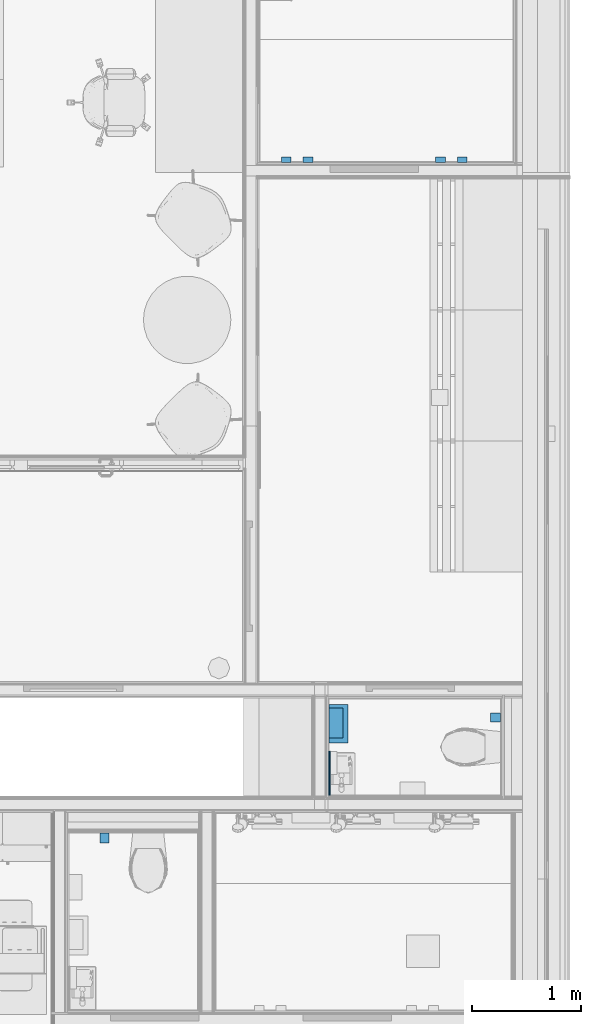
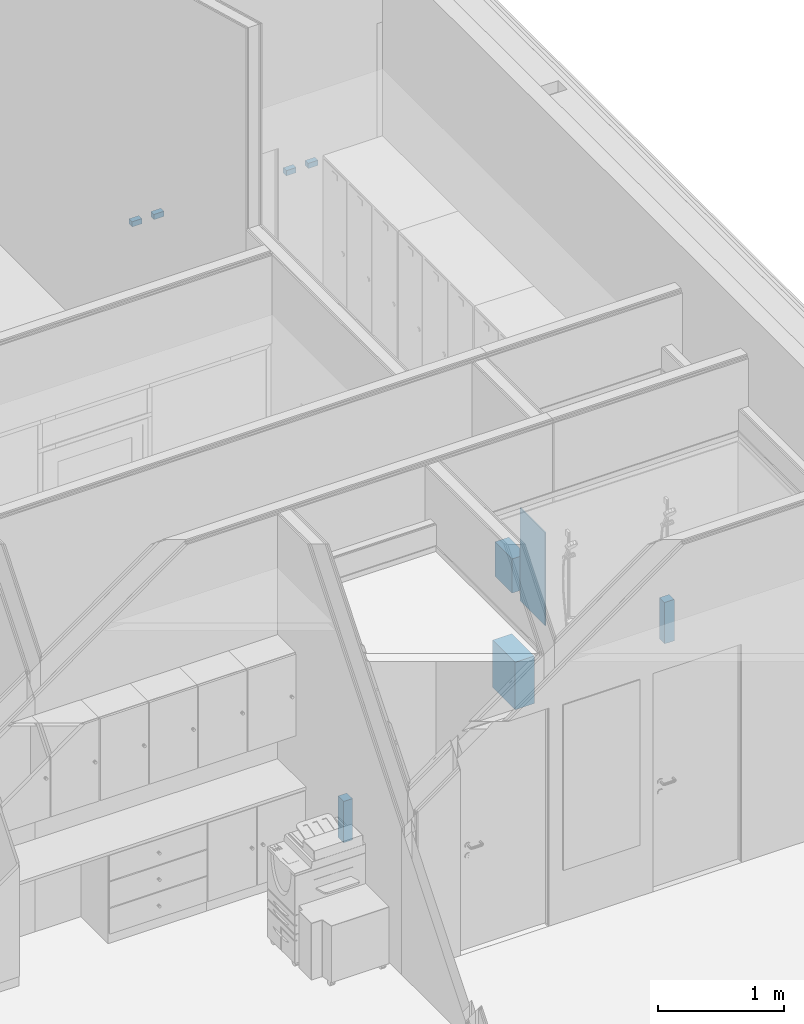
# One storey, part 97 of 153: 9 discrete accessories.
"""IFC2X3 building model written with IfcOpenShell, lengths in millimetres."""

from ifc_helpers import new_model, entity, si_unit, converted_unit, derived_unit, money_unit, direction, frame, origin_with_axes, place, context, subcontext, project, spatial, faceted_brep, material, type_object, element, save


model = new_model("IFC2X3")

# Units and contexts
model_context = context("Model", 3, precision=0.01, world=origin_with_axes(), true_north=direction((0.0, 1.0)))
body_context = subcontext(model_context, "Body", "Model", "MODEL_VIEW")
ifc_project = project(units=[si_unit("LENGTHUNIT", "METRE", prefix="MILLI"), si_unit("AREAUNIT", "SQUARE_METRE"), si_unit("VOLUMEUNIT", "CUBIC_METRE"), converted_unit("PLANEANGLEUNIT", "DEGREE", entity("IfcPlaneAngleMeasure", 0.0174532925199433), si_unit("PLANEANGLEUNIT", "RADIAN"), dimensions=[0, 0, 0, 0, 0, 0, 0]), money_unit("EUR"), converted_unit("TIMEUNIT", "Year", entity("IfcTimeMeasure", 31557600.0), si_unit("TIMEUNIT", "SECOND"), dimensions=[0, 0, 1, 0, 0, 0, 0]), si_unit("MASSUNIT", "GRAM", prefix="KILO"), si_unit("THERMODYNAMICTEMPERATUREUNIT", "DEGREE_CELSIUS"), si_unit("LUMINOUSINTENSITYUNIT", "LUMEN"), si_unit("ENERGYUNIT", "JOULE", prefix="MEGA"), derived_unit("THERMALCONDUCTANCEUNIT", [(si_unit("POWERUNIT", "WATT"), 1), (si_unit("LENGTHUNIT", "METRE"), -1), (si_unit("THERMODYNAMICTEMPERATUREUNIT", "KELVIN"), -1)]), derived_unit("SPECIFICHEATCAPACITYUNIT", [(si_unit("ENERGYUNIT", "JOULE"), 1), (si_unit("MASSUNIT", "GRAM", prefix="KILO"), -1), (si_unit("THERMODYNAMICTEMPERATUREUNIT", "KELVIN"), -1)]), derived_unit("MASSDENSITYUNIT", [(si_unit("MASSUNIT", "GRAM", prefix="KILO"), 1), (si_unit("VOLUMEUNIT", "CUBIC_METRE"), -1)])], contexts=[model_context])

# Site, building, storey
site_placement = place(None, frame((0.0, 0.0, 8650.0), z_axis=(0.0, 0.0, 1.0), x_axis=(1.0, 0.0, 0.0)))
site = spatial("IfcSite", under=ifc_project, at=site_placement, Name="43301:001:0844", CompositionType="ELEMENT")
building_placement = place(site_placement, origin_with_axes())
building = spatial("IfcBuilding", under=site, at=building_placement, Name="Kuressaare Ametikooli tuulikute mehaanikute õppekorpus", CompositionType="ELEMENT")
storey_placement = place(building_placement, frame((0.0, 0.0, 4100.0), z_axis=(0.0, 0.0, 1.0), x_axis=(1.0, 0.0, 0.0)))
storey = spatial("IfcBuildingStorey", under=building, at=storey_placement, Name="2.korrus", CompositionType="ELEMENT", Elevation=4100.0)

# Discrete accessories
ifc_material_1 = material(Name="GENEERILINE - SISEMINE VOODER")
discrete_accessory_type_1 = type_object("IfcDiscreteAccessoryType", Name="GENEERILINE - SISEMINE VOODER 10")
discrete_accessory_1_placement = place(storey_placement, frame((131265.1591945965, 20597.06855301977, 1200.0), z_axis=(0.0, 0.0, 1.0), x_axis=(-1.041563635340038e-06, 0.9999999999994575, 0.0)))
element("IfcDiscreteAccessory", 1, at=discrete_accessory_1_placement, inside=storey, type_object=discrete_accessory_type_1, material=ifc_material_1, Name="P1", context=body_context, shape_type="Brep", body=[
    faceted_brep([(0.0, 0.0, 899.9999999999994), (399.999999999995, 0.0, 899.9999999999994), (399.999999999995, 9.999999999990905, 899.9999999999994), (0.0, 9.999999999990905, 899.9999999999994), (0.0, 0.0, 0.0), (399.999999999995, 0.0, 0.0), (399.999999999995, 9.999999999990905, 0.0), (0.0, 9.999999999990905, 0.0)], [[[0, 1, 2, 3]], [[4, 5, 1, 0]], [[2, 1, 5, 6]], [[3, 2, 6, 7]], [[4, 0, 3, 7]], [[7, 6, 5, 4]]]),
])
ifc_material_2 = material(Name="GENEERILINE - KONSTRUKTRIOON")
discrete_accessory_type_2 = type_object("IfcDiscreteAccessoryType", Name="GENEERILINE - KONSTRUKTRIOON 400")
discrete_accessory_2_placement = place(storey_placement, frame((129242.4503593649, 20161.06884733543, 99.99999999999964), z_axis=(0.0, 0.0, 1.0), x_axis=(1.0, 0.0, 0.0)))
element("IfcDiscreteAccessory", 2, at=discrete_accessory_2_placement, inside=storey, type_object=discrete_accessory_type_2, material=ifc_material_2, Name="WCH", context=body_context, shape_type="Brep", body=[
    faceted_brep([(0.0, 0.0, 400.0000000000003), (0.0, 0.0, 0.0), (0.0, 88.99999999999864, 0.0), (0.0, 88.99999999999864, 400.0000000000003), (-81.00000000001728, 0.0, 400.0000000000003), (-81.00000000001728, 0.0, 0.0), (-81.00000000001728, 88.99999999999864, 0.0), (-81.00000000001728, 88.99999999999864, 400.0000000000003)], [[[0, 1, 2, 3]], [[4, 5, 1, 0]], [[2, 1, 5, 6]], [[3, 2, 6, 7]], [[4, 0, 3, 7]], [[7, 6, 5, 4]]]),
])
discrete_accessory_3_placement = place(storey_placement, frame((132734.9461774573, 21268.74385079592, 99.99999999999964), z_axis=(0.0, 0.0, 1.0), x_axis=(1.0, 0.0, 0.0)))
element("IfcDiscreteAccessory", 3, at=discrete_accessory_3_placement, inside=storey, type_object=discrete_accessory_type_2, material=ifc_material_2, Name="WCH", context=body_context, shape_type="Brep", body=[
    faceted_brep([(0.0, 0.0, 400.0000000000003), (0.0, 0.0, 0.0), (88.99999999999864, 0.0, 0.0), (88.99999999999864, 0.0, 400.0000000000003), (0.0, 81.00000000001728, 400.0000000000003), (0.0, 81.00000000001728, 0.0), (88.99999999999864, 81.00000000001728, 0.0), (88.99999999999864, 81.00000000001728, 400.0000000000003)], [[[0, 1, 2, 3]], [[4, 5, 1, 0]], [[2, 1, 5, 6]], [[3, 2, 6, 7]], [[4, 0, 3, 7]], [[7, 6, 5, 4]]]),
])
discrete_accessory_type_3 = type_object("IfcDiscreteAccessoryType", Name="GENEERILINE - KONSTRUKTRIOON 50")
for number, where, z_axis, x_axis, name in (
    (4, (132230.0683571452, 26434.06892395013, 1700.0), (0.0, 0.0, 1.0), (1.0, 0.0, 0.0), "N1"),
    (5, (132430.0683571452, 26434.06892395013, 1700.0), (0.0, 0.0, 1.0), (1.0, 0.0, 0.0), "N1"),
):
    element("IfcDiscreteAccessory", number, at=place(storey_placement, frame(where, z_axis=z_axis, x_axis=x_axis)), inside=storey, type_object=discrete_accessory_type_3, material=ifc_material_2, Name=name, context=body_context, shape_type="Brep", body=[
        faceted_brep([(0.0, 0.0, 49.99999999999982), (0.0, 0.0, 0.0), (0.0, -49.99999999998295, 0.0), (0.0, -49.99999999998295, 49.99999999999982), (90.00000000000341, 0.0, 49.99999999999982), (90.00000000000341, 0.0, 0.0), (90.00000000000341, -49.99999999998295, 0.0), (90.00000000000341, -49.99999999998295, 49.99999999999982)], [[[0, 1, 2, 3]], [[4, 5, 1, 0]], [[2, 1, 5, 6]], [[3, 2, 6, 7]], [[4, 0, 3, 7]], [[7, 6, 5, 4]]]),
    ])
for number, where, z_axis, x_axis, name in (
    (6, (131110.0683571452, 26434.06892395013, 1700.0), (0.0, 0.0, 1.0), (1.0, 0.0, 0.0), "N1"),
    (7, (130910.0683571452, 26434.06892395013, 1700.0), (0.0, 0.0, 1.0), (1.0, 0.0, 0.0), "N1"),
):
    element("IfcDiscreteAccessory", number, at=place(storey_placement, frame(where, z_axis=z_axis, x_axis=x_axis)), inside=storey, type_object=discrete_accessory_type_3, material=ifc_material_2, Name=name, context=body_context, shape_type="Brep", body=[
        faceted_brep([(0.0, 0.0, 49.99999999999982), (0.0, 0.0, 0.0), (-90.00000000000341, 0.0, 0.0), (-90.00000000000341, 0.0, 49.99999999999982), (0.0, -49.99999999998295, 49.99999999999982), (0.0, -49.99999999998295, 0.0), (-90.00000000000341, -49.99999999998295, 0.0), (-90.00000000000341, -49.99999999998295, 49.99999999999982)], [[[0, 1, 2, 3]], [[4, 5, 1, 0]], [[2, 1, 5, 6]], [[3, 2, 6, 7]], [[4, 0, 3, 7]], [[7, 6, 5, 4]]]),
    ])
discrete_accessory_type_4 = type_object("IfcDiscreteAccessoryType", Name="GENEERILINE - KONSTRUKTRIOON 460")
discrete_accessory_4_placement = place(storey_placement, frame((131255.1582896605, 21072.49224138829, 99.99999999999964), z_axis=(0.0, 0.0, 1.0), x_axis=(1.0, 0.0, 0.0)))
element("IfcDiscreteAccessory", 8, at=discrete_accessory_4_placement, inside=storey, type_object=discrete_accessory_type_4, material=ifc_material_2, Name="PR1", context=body_context, shape_type="Brep", body=[
    faceted_brep([(0.0, 0.0, 460.0000000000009), (0.0, 0.0, 0.0), (175.9999999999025, 0.0001833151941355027, 0.0), (175.9999999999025, 0.0001833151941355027, 460.0000000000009), (-0.0003697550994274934, 354.9999999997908, 460.0000000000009), (-0.0003697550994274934, 354.9999999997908, 0.0), (175.999630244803, 355.000183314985, 0.0), (175.999630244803, 355.000183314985, 460.0000000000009)], [[[0, 1, 2, 3]], [[4, 5, 1, 0]], [[2, 1, 5, 6]], [[3, 2, 6, 7]], [[4, 0, 3, 7]], [[7, 6, 5, 4]]]),
])
discrete_accessory_type_5 = type_object("IfcDiscreteAccessoryType", Name="GENEERILINE - KONSTRUKTRIOON 330")
discrete_accessory_5_placement = place(storey_placement, frame((131255.1585600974, 21119.3877669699, 1200.0), z_axis=(0.0, 0.0, 1.0), x_axis=(1.0, 0.0, 0.0)))
element("IfcDiscreteAccessory", 9, at=discrete_accessory_5_placement, inside=storey, type_object=discrete_accessory_type_5, material=ifc_material_2, Name="PD", context=body_context, shape_type="Brep", body=[
    faceted_brep([(0.0, 0.0, 330.0000000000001), (0.0, 0.0, 0.0), (129.9999999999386, 0.0001354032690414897, 0.0), (129.9999999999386, 0.0001354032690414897, 330.0000000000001), (-0.0002864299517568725, 274.9999999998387, 330.0000000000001), (-0.0002864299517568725, 274.9999999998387, 0.0), (129.99971356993, 275.0001354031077, 0.0), (129.99971356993, 275.0001354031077, 330.0000000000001)], [[[0, 1, 2, 3]], [[4, 5, 1, 0]], [[2, 1, 5, 6]], [[3, 2, 6, 7]], [[4, 0, 3, 7]], [[7, 6, 5, 4]]]),
])

save(model, "model.ifc")
